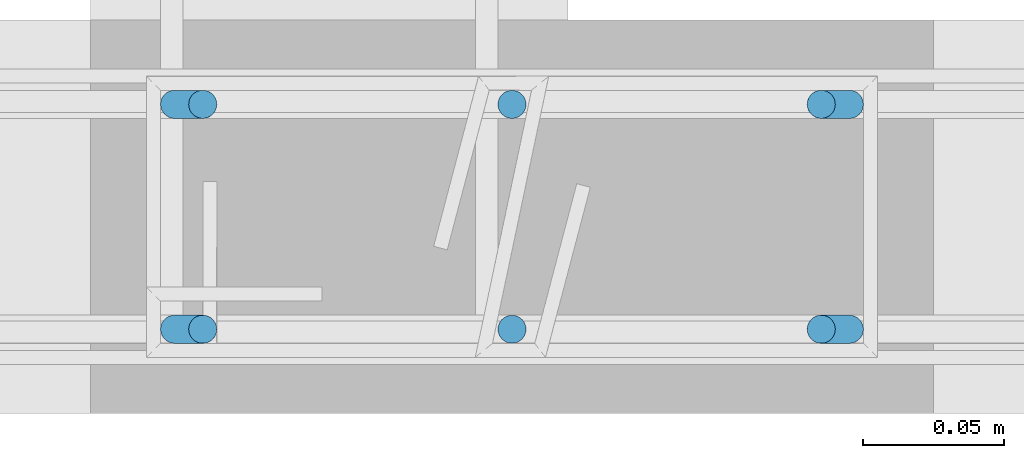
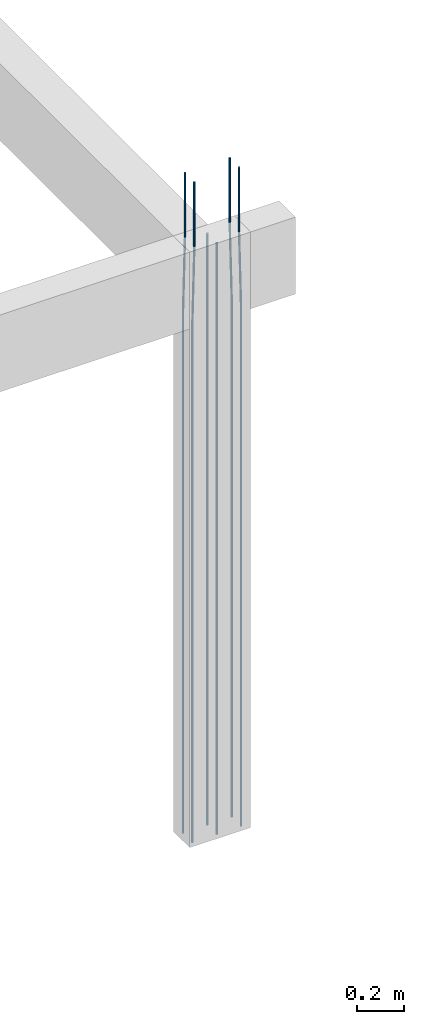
# One storey, part 107 of 236: 6 reinforcing bars.
"""IFC4 building model written with IfcOpenShell, lengths in centimetres."""

from ifc_helpers import new_model, entity, si_unit, derived_unit, frame, origin_with_axes, place, context, project, spatial, element, save


model = new_model("IFC4")

# Units and contexts
model_context = context("Model", 3, precision=1e-05, world=origin_with_axes(), identifier="Body")
ifc_project = project(units=[si_unit("LENGTHUNIT", "METRE", prefix="CENTI"), si_unit("VOLUMEUNIT", "CUBIC_METRE"), si_unit("AREAUNIT", "SQUARE_METRE"), si_unit("POWERUNIT", "WATT"), si_unit("LUMINOUSFLUXUNIT", "LUMEN"), si_unit("ELECTRICCURRENTUNIT", "AMPERE"), si_unit("PRESSUREUNIT", "PASCAL", prefix="KILO"), si_unit("MASSUNIT", "GRAM", prefix="KILO"), si_unit("PLANEANGLEUNIT", "RADIAN"), derived_unit("VOLUMETRICFLOWRATEUNIT", [(si_unit("LENGTHUNIT", "METRE"), 3), (si_unit("TIMEUNIT", "SECOND"), -1)])], contexts=[model_context])

# Site, building, storey
site_placement = place(None, frame((-4000.0, 0.0, 0.0), z_axis=(0.0, 0.0, 1.0), x_axis=(1.0, 0.0, 0.0)))
site = spatial("IfcSite", under=ifc_project, at=site_placement, Name="PADRÃO")
building_placement = place(site_placement, frame((0.0, 0.0, -14.0)))
building = spatial("IfcBuilding", under=site, at=building_placement, Name="CRECHE PRÉ-ESCOLA TIPO 2")
placement_1 = place(building_placement, origin_with_axes())
placement_2 = place(placement_1, frame((0.0, 0.0, 30.0), z_axis=(0.0, 0.0, 1.0), x_axis=(1.0, 0.0, 0.0)))
storey_placement = place(placement_2, frame((0.0, 0.0, 310.0), z_axis=(0.0, 0.0, 1.0), x_axis=(1.0, 0.0, 0.0)))
storey = spatial("IfcBuildingStorey", under=building, at=storey_placement, Name="TERREO", CompositionType="ELEMENT", Elevation=326.0)

# Reinforcing bars
reinforcing_bar_1_placement = place(storey_placement, frame((3372.5, 519.01, -2.0), z_axis=(0.0, 0.0, 1.0), x_axis=(1.0, 0.0, 0.0)))
element("IfcReinforcingBar", 1, at=reinforcing_bar_1_placement, inside=storey, Name="P140 - Longitudinal", BarLength=0.0, CrossSectionArea=7.853981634e-05, NominalDiameter=1.0, PredefinedType="MAIN", context=model_context, shape_type="AdvancedSweptSolid", body=[
    entity("IfcSweptDiskSolid", entity("IfcCompositeCurve", [entity("IfcCompositeCurveSegment", "CONTINUOUS", True, entity("IfcPolyline", [entity("IfcCartesianPoint", [0.0, 0.0, -308.0]), entity("IfcCartesianPoint", [0.0, 0.0, 0.0])]))], False), 0.5),
])
reinforcing_bar_2_placement = place(storey_placement, frame((3384.0, 519.01, 33.3573001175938), z_axis=(0.0, 0.0, 1.0), x_axis=(1.0, 0.0, 0.0)))
element("IfcReinforcingBar", 2, at=reinforcing_bar_2_placement, inside=storey, Name="P140 - Longitudinal", BarLength=0.0, CrossSectionArea=7.853981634e-05, NominalDiameter=1.0, PredefinedType="MAIN", context=model_context, shape_type="AdvancedSweptSolid", body=[
    entity("IfcSweptDiskSolid", entity("IfcCompositeCurve", [entity("IfcCompositeCurveSegment", "CONTINUOUS", True, entity("IfcPolyline", [entity("IfcCartesianPoint", [0.5, 0.0, -343.357300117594]), entity("IfcCartesianPoint", [0.5, 0.0, -73.3573001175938])])), entity("IfcCompositeCurveSegment", "CONTINUOUS", True, entity("IfcPolyline", [entity("IfcCartesianPoint", [0.5, 0.0, -73.3573001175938]), entity("IfcCartesianPoint", [-0.5, 0.0, -33.3573001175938])])), entity("IfcCompositeCurveSegment", "CONTINUOUS", True, entity("IfcPolyline", [entity("IfcCartesianPoint", [-0.5, 0.0, -33.3573001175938]), entity("IfcCartesianPoint", [-0.5, 0.0, 0.0])]))], False), 0.5),
])
reinforcing_bar_3_placement = place(storey_placement, frame((3361.0, 511.01, 33.3573001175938), z_axis=(0.0, 0.0, 1.0), x_axis=(1.0, 0.0, 0.0)))
element("IfcReinforcingBar", 3, at=reinforcing_bar_3_placement, inside=storey, Name="P140 - Longitudinal", BarLength=0.0, CrossSectionArea=7.853981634e-05, NominalDiameter=1.0, PredefinedType="MAIN", context=model_context, shape_type="AdvancedSweptSolid", body=[
    entity("IfcSweptDiskSolid", entity("IfcCompositeCurve", [entity("IfcCompositeCurveSegment", "CONTINUOUS", True, entity("IfcPolyline", [entity("IfcCartesianPoint", [-0.5, 0.0, -343.357300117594]), entity("IfcCartesianPoint", [-0.5, 0.0, -73.3573001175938])])), entity("IfcCompositeCurveSegment", "CONTINUOUS", True, entity("IfcPolyline", [entity("IfcCartesianPoint", [-0.5, 0.0, -73.3573001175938]), entity("IfcCartesianPoint", [0.5, 0.0, -33.3573001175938])])), entity("IfcCompositeCurveSegment", "CONTINUOUS", True, entity("IfcPolyline", [entity("IfcCartesianPoint", [0.5, 0.0, -33.3573001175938]), entity("IfcCartesianPoint", [0.5, 0.0, 0.0])]))], False), 0.5),
])
reinforcing_bar_4_placement = place(storey_placement, frame((3372.5, 511.01, -2.0), z_axis=(0.0, 0.0, 1.0), x_axis=(1.0, 0.0, 0.0)))
element("IfcReinforcingBar", 4, at=reinforcing_bar_4_placement, inside=storey, Name="P140 - Longitudinal", BarLength=0.0, CrossSectionArea=7.853981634e-05, NominalDiameter=1.0, PredefinedType="MAIN", context=model_context, shape_type="AdvancedSweptSolid", body=[
    entity("IfcSweptDiskSolid", entity("IfcCompositeCurve", [entity("IfcCompositeCurveSegment", "CONTINUOUS", True, entity("IfcPolyline", [entity("IfcCartesianPoint", [0.0, 0.0, -308.0]), entity("IfcCartesianPoint", [0.0, 0.0, 0.0])]))], False), 0.5),
])
reinforcing_bar_5_placement = place(storey_placement, frame((3384.0, 511.01, 33.3573001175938), z_axis=(0.0, 0.0, 1.0), x_axis=(1.0, 0.0, 0.0)))
element("IfcReinforcingBar", 5, at=reinforcing_bar_5_placement, inside=storey, Name="P140 - Longitudinal", BarLength=0.0, CrossSectionArea=7.853981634e-05, NominalDiameter=1.0, PredefinedType="MAIN", context=model_context, shape_type="AdvancedSweptSolid", body=[
    entity("IfcSweptDiskSolid", entity("IfcCompositeCurve", [entity("IfcCompositeCurveSegment", "CONTINUOUS", True, entity("IfcPolyline", [entity("IfcCartesianPoint", [0.5, 0.0, -343.357300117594]), entity("IfcCartesianPoint", [0.5, 0.0, -73.3573001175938])])), entity("IfcCompositeCurveSegment", "CONTINUOUS", True, entity("IfcPolyline", [entity("IfcCartesianPoint", [0.5, 0.0, -73.3573001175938]), entity("IfcCartesianPoint", [-0.5, 0.0, -33.3573001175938])])), entity("IfcCompositeCurveSegment", "CONTINUOUS", True, entity("IfcPolyline", [entity("IfcCartesianPoint", [-0.5, 0.0, -33.3573001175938]), entity("IfcCartesianPoint", [-0.5, 0.0, 0.0])]))], False), 0.5),
])
reinforcing_bar_6_placement = place(storey_placement, frame((3361.0, 519.01, 33.3573001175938), z_axis=(0.0, 0.0, 1.0), x_axis=(1.0, 0.0, 0.0)))
element("IfcReinforcingBar", 6, at=reinforcing_bar_6_placement, inside=storey, Name="P140 - Longitudinal", BarLength=0.0, CrossSectionArea=7.853981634e-05, NominalDiameter=1.0, PredefinedType="MAIN", context=model_context, shape_type="AdvancedSweptSolid", body=[
    entity("IfcSweptDiskSolid", entity("IfcCompositeCurve", [entity("IfcCompositeCurveSegment", "CONTINUOUS", True, entity("IfcPolyline", [entity("IfcCartesianPoint", [-0.5, 0.0, -343.357300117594]), entity("IfcCartesianPoint", [-0.5, 0.0, -73.3573001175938])])), entity("IfcCompositeCurveSegment", "CONTINUOUS", True, entity("IfcPolyline", [entity("IfcCartesianPoint", [-0.5, 0.0, -73.3573001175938]), entity("IfcCartesianPoint", [0.5, 0.0, -33.3573001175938])])), entity("IfcCompositeCurveSegment", "CONTINUOUS", True, entity("IfcPolyline", [entity("IfcCartesianPoint", [0.5, 0.0, -33.3573001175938]), entity("IfcCartesianPoint", [0.5, 0.0, 0.0])]))], False), 0.5),
])

save(model, "model.ifc")
